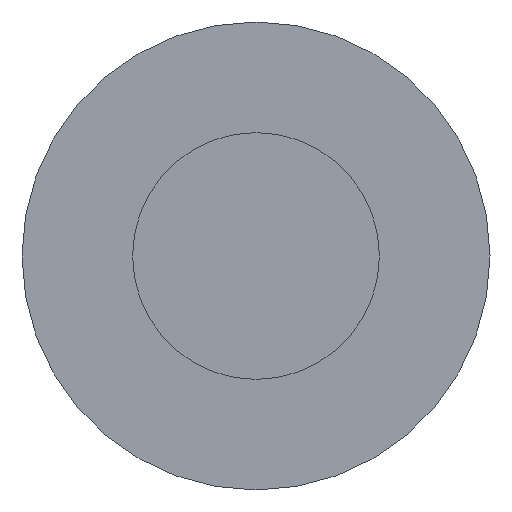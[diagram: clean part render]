
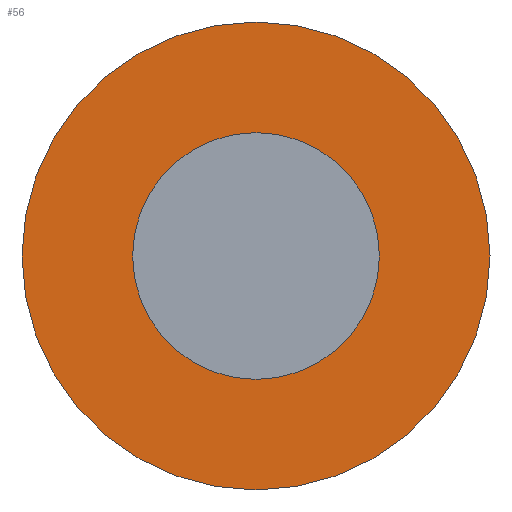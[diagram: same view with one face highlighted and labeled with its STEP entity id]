
A CAD part, front view. The second image highlights one B-rep face of the part: STEP entity #56.
In plain terms, the highlighted planar face has unit normal (0, -1, 0).
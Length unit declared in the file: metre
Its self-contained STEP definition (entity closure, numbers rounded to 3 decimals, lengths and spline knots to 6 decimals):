
#15=PLANE('',#77);
#20=ORIENTED_EDGE('',*,*,#25,.T.);
#21=ORIENTED_EDGE('',*,*,#27,.F.);
#25=EDGE_CURVE('',#29,#29,#33,.T.);
#27=EDGE_CURVE('',#31,#31,#35,.T.);
#29=VERTEX_POINT('',#105);
#31=VERTEX_POINT('',#112);
#33=CIRCLE('',#73,0.0029);
#35=CIRCLE('',#78,0.0055);
#40=EDGE_LOOP('',(#20));
#41=EDGE_LOOP('',(#21));
#48=FACE_BOUND('',#40,.T.);
#49=FACE_BOUND('',#41,.T.);
#56=ADVANCED_FACE('',(#48,#49),#15,.F.);
#73=AXIS2_PLACEMENT_3D('',#104,#86,#87);
#77=AXIS2_PLACEMENT_3D('',#110,#94,#95);
#78=AXIS2_PLACEMENT_3D('',#111,#96,#97);
#86=DIRECTION('',(0.,1.,0.));
#87=DIRECTION('',(0.,0.,1.));
#94=DIRECTION('',(0.,1.,0.));
#95=DIRECTION('',(-1.,0.,0.));
#96=DIRECTION('',(0.,1.,0.));
#97=DIRECTION('',(0.,0.,1.));
#104=CARTESIAN_POINT('',(-0.007226,0.010224,0.037058));
#105=CARTESIAN_POINT('',(-0.007226,0.010224,0.039958));
#110=CARTESIAN_POINT('',(-0.007226,0.010224,0.007058));
#111=CARTESIAN_POINT('',(-0.007226,0.010224,0.037058));
#112=CARTESIAN_POINT('',(-0.007226,0.010224,0.042558));
